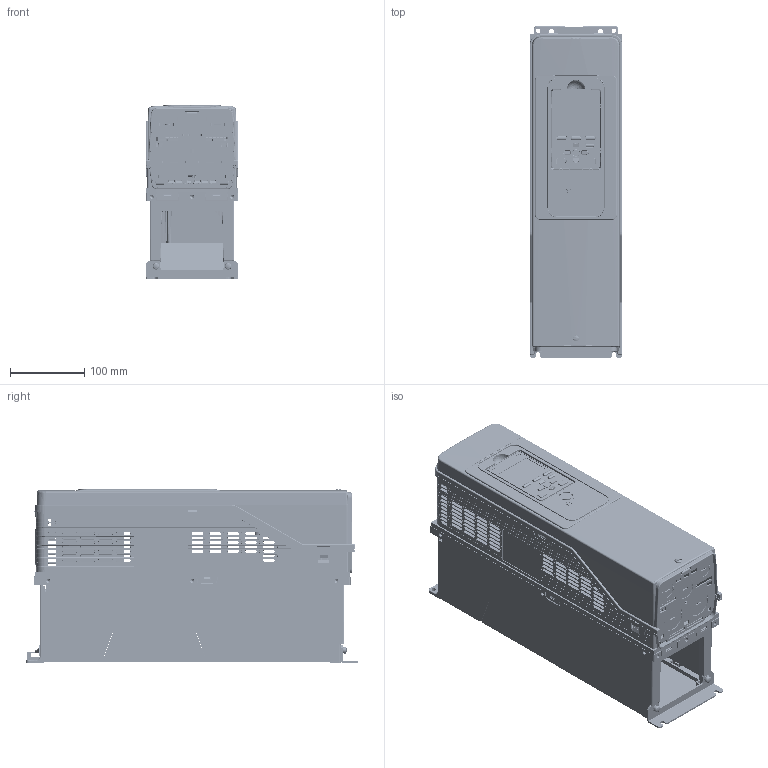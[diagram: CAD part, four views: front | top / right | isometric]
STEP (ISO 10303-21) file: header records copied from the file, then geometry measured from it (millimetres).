
FILE_DESCRIPTION((''),'2;1');
FILE_NAME('SM_HV60_FR2_T1','2019-10-17T',('jmattas'),(''),'PRO/ENGINEER BY PARAMETRIC TECHNOLOGY CORPORATION, 2015110','PRO/ENGINEER BY PARAMETRIC TECHNOLOGY CORPORATION, 2015110','');
FILE_SCHEMA(('CONFIG_CONTROL_DESIGN'));
Products named in the file (7): SM_HV60_FR2_T1_BASE; SM_HV60_FR2_T1_COVER1; SM_HV60_FR2_T1_KEYPAD; SM_HV60_FR2_T1_COVER2; SM_HV60_FR2_T1_COVER3; SM_HV60_FR2_T1_BRACKET1; SM_HV60_FR2_T1
Assembly tree (6 placements, depth 2):
  SM_HV60_FR2_T1
    SM_HV60_FR2_T1_BASE
    SM_HV60_FR2_T1_COVER1
    SM_HV60_FR2_T1_KEYPAD
    SM_HV60_FR2_T1_COVER2
    SM_HV60_FR2_T1_COVER3
    SM_HV60_FR2_T1_BRACKET1
Bounding box: 124 x 447 x 234.5 mm (x, y, z)
Volume: 2394465.9 mm3; surface area: 1366752.6 mm2
Topology: 6 solids, 9 shells, 8496 faces, 23741 edges, 15177 vertices
Faces by surface type: plane 5005, cylinder 2204, cone 620, bspline 387, torus 225, sphere 54, extrusion 1
Entity records: 317154 total; most frequent: CARTESIAN_POINT 102053, ORIENTED_EDGE 47362, DIRECTION 41287, EDGE_CURVE 23681, VECTOR 16279, LINE 16278, VERTEX_POINT 15177, AXIS2_PLACEMENT_3D 12504
